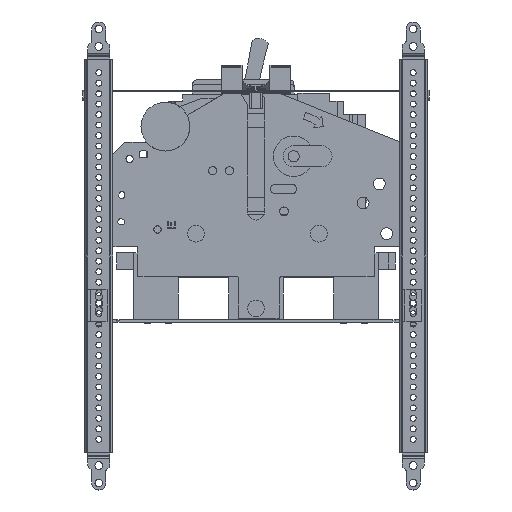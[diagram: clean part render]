
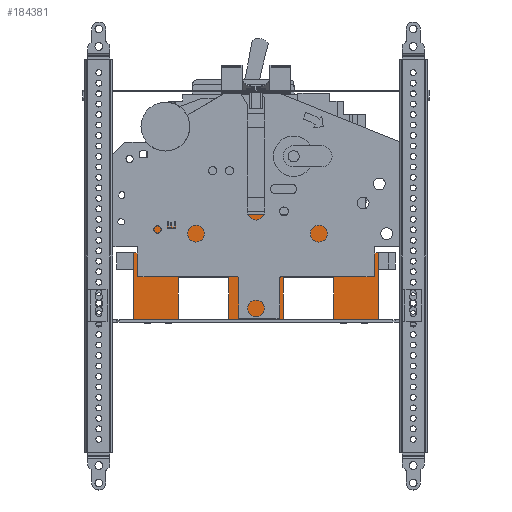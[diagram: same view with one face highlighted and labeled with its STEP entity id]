
A CAD part, left-side view. The second image highlights one B-rep face of the part: STEP entity #184381.
In plain terms, the highlighted planar face has unit normal (-1, 0, 0).
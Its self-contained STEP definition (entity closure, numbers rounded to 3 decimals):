
#182591=CARTESIAN_POINT(' ',(-196.961,-16.467,-65.647));
#182592=VERTEX_POINT(' ',#182591);
#182666=CARTESIAN_POINT(' ',(-196.961,-16.467,-35.647));
#182667=VERTEX_POINT(' ',#182666);
#182681=CARTESIAN_POINT(' ',(-196.961,-16.467,-35.647));
#182686=DIRECTION(' ',(0.,0.,-1.));
#182691=VECTOR(' ',#182686,1.);
#182696=LINE('',#182681,#182691);
#182701=EDGE_CURVE(' ',#182667,#182592,#182696,.T.);
#182751=CARTESIAN_POINT(' ',(-196.961,-16.467,-65.647));
#182756=DIRECTION(' ',(0.,1.,0.));
#182761=VECTOR(' ',#182756,1.);
#182766=LINE('',#182751,#182761);
#182771=CARTESIAN_POINT(' ',(-196.961,22.533,-65.647));
#182772=VERTEX_POINT(' ',#182771);
#182776=EDGE_CURVE(' ',#182592,#182772,#182766,.T.);
#182956=CARTESIAN_POINT(' ',(-196.961,-84.667,-65.647));
#182957=VERTEX_POINT(' ',#182956);
#182971=CARTESIAN_POINT(' ',(-196.961,-84.667,-65.647));
#182976=DIRECTION(' ',(0.,1.,0.));
#182981=VECTOR(' ',#182976,1.);
#182986=LINE('',#182971,#182981);
#182991=CARTESIAN_POINT(' ',(-196.961,-52.467,-65.647));
#182992=VERTEX_POINT(' ',#182991);
#182996=EDGE_CURVE(' ',#182957,#182992,#182986,.T.);
#183096=CARTESIAN_POINT(' ',(-196.961,58.533,-65.647));
#183097=VERTEX_POINT(' ',#183096);
#183116=CARTESIAN_POINT(' ',(-196.961,58.533,-65.647));
#183121=DIRECTION(' ',(0.,1.,0.));
#183126=VECTOR(' ',#183121,1.);
#183131=LINE('',#183116,#183126);
#183136=CARTESIAN_POINT(' ',(-196.961,90.733,-65.647));
#183137=VERTEX_POINT(' ',#183136);
#183141=EDGE_CURVE(' ',#183097,#183137,#183131,.T.);
#183811=CARTESIAN_POINT(' ',(-196.961,-52.467,-35.647));
#183812=VERTEX_POINT(' ',#183811);
#183826=CARTESIAN_POINT(' ',(-196.961,-52.467,-35.647));
#183831=DIRECTION(' ',(0.,1.,0.));
#183836=VECTOR(' ',#183831,1.);
#183841=LINE('',#183826,#183836);
#183846=EDGE_CURVE(' ',#183812,#182667,#183841,.T.);
#183881=DIRECTION(' ',(-1.,0.,0.));
#183886=CARTESIAN_POINT(' ',(-196.961,-84.667,9.353));
#183891=DIRECTION(' ',(0.,1.,0.));
#183896=AXIS2_PLACEMENT_3D(' ',#183886,#183881,#183891);
#183901=PLANE('NONE',#183896);
#183906=ORIENTED_EDGE(' ',*,*,#182701,.F.);
#183911=ORIENTED_EDGE(' ',*,*,#183846,.F.);
#183916=CARTESIAN_POINT(' ',(-196.961,-52.467,-35.647));
#183921=DIRECTION(' ',(0.,0.,-1.));
#183926=VECTOR(' ',#183921,1.);
#183931=LINE('',#183916,#183926);
#183936=EDGE_CURVE(' ',#183812,#182992,#183931,.T.);
#183941=ORIENTED_EDGE(' ',*,*,#183936,.T.);
#183946=ORIENTED_EDGE(' ',*,*,#182996,.F.);
#183951=CARTESIAN_POINT(' ',(-196.961,-84.667,-65.647));
#183956=DIRECTION(' ',(0.,0.,1.));
#183961=VECTOR(' ',#183956,1.);
#183966=LINE('',#183951,#183961);
#183971=CARTESIAN_POINT(' ',(-196.961,-84.667,-17.647));
#183972=VERTEX_POINT(' ',#183971);
#183976=EDGE_CURVE(' ',#182957,#183972,#183966,.T.);
#183981=ORIENTED_EDGE(' ',*,*,#183976,.T.);
#183986=CARTESIAN_POINT(' ',(-196.961,-81.967,-17.647));
#183991=DIRECTION(' ',(0.,-1.,0.));
#183996=VECTOR(' ',#183991,1.);
#184001=LINE('',#183986,#183996);
#184006=CARTESIAN_POINT(' ',(-196.961,-81.967,-17.647));
#184007=VERTEX_POINT(' ',#184006);
#184011=EDGE_CURVE(' ',#184007,#183972,#184001,.T.);
#184016=ORIENTED_EDGE(' ',*,*,#184011,.F.);
#184021=CARTESIAN_POINT(' ',(-196.961,-81.967,-17.647));
#184026=DIRECTION(' ',(0.,0.,1.));
#184031=VECTOR(' ',#184026,1.);
#184036=LINE('',#184021,#184031);
#184041=CARTESIAN_POINT(' ',(-196.961,-81.967,9.353));
#184042=VERTEX_POINT(' ',#184041);
#184046=EDGE_CURVE(' ',#184007,#184042,#184036,.T.);
#184051=ORIENTED_EDGE(' ',*,*,#184046,.T.);
#184056=CARTESIAN_POINT(' ',(-196.961,-81.967,9.353));
#184061=DIRECTION(' ',(0.,1.,0.));
#184066=VECTOR(' ',#184061,1.);
#184071=LINE('',#184056,#184066);
#184076=CARTESIAN_POINT(' ',(-196.961,14.533,9.353));
#184077=VERTEX_POINT(' ',#184076);
#184081=EDGE_CURVE(' ',#184042,#184077,#184071,.T.);
#184086=ORIENTED_EDGE(' ',*,*,#184081,.T.);
#184091=CARTESIAN_POINT(' ',(-196.961,14.533,9.353));
#184096=DIRECTION(' ',(0.,1.,0.));
#184101=VECTOR(' ',#184096,1.);
#184106=LINE('',#184091,#184101);
#184111=CARTESIAN_POINT(' ',(-196.961,26.533,9.353));
#184112=VERTEX_POINT(' ',#184111);
#184116=EDGE_CURVE(' ',#184077,#184112,#184106,.T.);
#184121=ORIENTED_EDGE(' ',*,*,#184116,.T.);
#184126=CARTESIAN_POINT(' ',(-196.961,26.533,9.353));
#184131=DIRECTION(' ',(0.,1.,0.));
#184136=VECTOR(' ',#184131,1.);
#184141=LINE('',#184126,#184136);
#184146=CARTESIAN_POINT(' ',(-196.961,88.033,9.353));
#184147=VERTEX_POINT(' ',#184146);
#184151=EDGE_CURVE(' ',#184112,#184147,#184141,.T.);
#184156=ORIENTED_EDGE(' ',*,*,#184151,.T.);
#184161=CARTESIAN_POINT(' ',(-196.961,88.033,-17.647));
#184166=DIRECTION(' ',(0.,0.,1.));
#184171=VECTOR(' ',#184166,1.);
#184176=LINE('',#184161,#184171);
#184181=CARTESIAN_POINT(' ',(-196.961,88.033,-17.647));
#184182=VERTEX_POINT(' ',#184181);
#184186=EDGE_CURVE(' ',#184182,#184147,#184176,.T.);
#184191=ORIENTED_EDGE(' ',*,*,#184186,.F.);
#184196=CARTESIAN_POINT(' ',(-196.961,90.733,-17.647));
#184201=DIRECTION(' ',(0.,-1.,0.));
#184206=VECTOR(' ',#184201,1.);
#184211=LINE('',#184196,#184206);
#184216=CARTESIAN_POINT(' ',(-196.961,90.733,-17.647));
#184217=VERTEX_POINT(' ',#184216);
#184221=EDGE_CURVE(' ',#184217,#184182,#184211,.T.);
#184226=ORIENTED_EDGE(' ',*,*,#184221,.F.);
#184231=CARTESIAN_POINT(' ',(-196.961,90.733,-65.647));
#184236=DIRECTION(' ',(0.,0.,1.));
#184241=VECTOR(' ',#184236,1.);
#184246=LINE('',#184231,#184241);
#184251=EDGE_CURVE(' ',#183137,#184217,#184246,.T.);
#184256=ORIENTED_EDGE(' ',*,*,#184251,.F.);
#184261=ORIENTED_EDGE(' ',*,*,#183141,.F.);
#184266=CARTESIAN_POINT(' ',(-196.961,58.533,-35.647));
#184271=DIRECTION(' ',(0.,0.,-1.));
#184276=VECTOR(' ',#184271,1.);
#184281=LINE('',#184266,#184276);
#184286=CARTESIAN_POINT(' ',(-196.961,58.533,-35.647));
#184287=VERTEX_POINT(' ',#184286);
#184291=EDGE_CURVE(' ',#184287,#183097,#184281,.T.);
#184296=ORIENTED_EDGE(' ',*,*,#184291,.F.);
#184301=CARTESIAN_POINT(' ',(-196.961,22.533,-35.647));
#184306=DIRECTION(' ',(0.,1.,0.));
#184311=VECTOR(' ',#184306,1.);
#184316=LINE('',#184301,#184311);
#184321=CARTESIAN_POINT(' ',(-196.961,22.533,-35.647));
#184322=VERTEX_POINT(' ',#184321);
#184326=EDGE_CURVE(' ',#184322,#184287,#184316,.T.);
#184331=ORIENTED_EDGE(' ',*,*,#184326,.F.);
#184336=CARTESIAN_POINT(' ',(-196.961,22.533,-35.647));
#184341=DIRECTION(' ',(0.,0.,-1.));
#184346=VECTOR(' ',#184341,1.);
#184351=LINE('',#184336,#184346);
#184356=EDGE_CURVE(' ',#184322,#182772,#184351,.T.);
#184361=ORIENTED_EDGE(' ',*,*,#184356,.T.);
#184366=ORIENTED_EDGE(' ',*,*,#182776,.F.);
#184371=EDGE_LOOP(' ',(#183906,#183911,#183941,#183946,#183981,#184016,#184051,#184086,#184121,#184156,#184191,#184226,#184256,#184261,#184296,#184331,#184361,#184366));
#184376=FACE_OUTER_BOUND(' ',#184371,.T.);
#184381=ADVANCED_FACE('NONE',(#184376),#183901,.T.);
